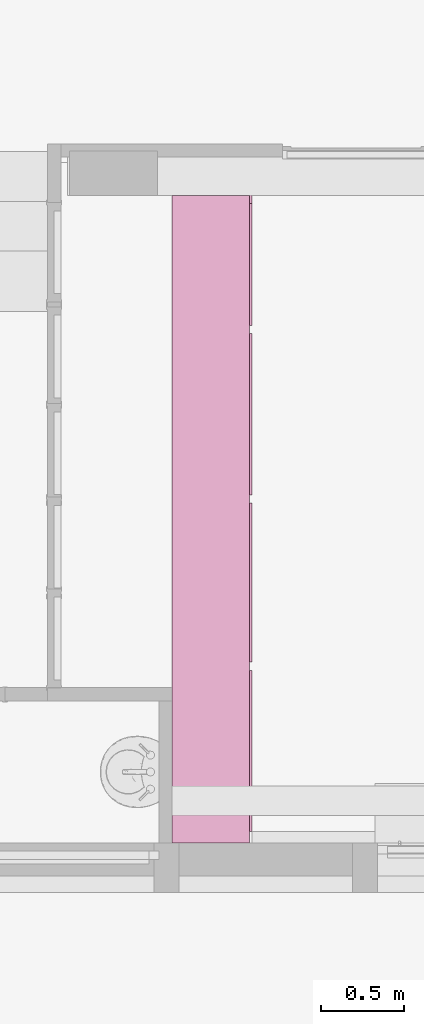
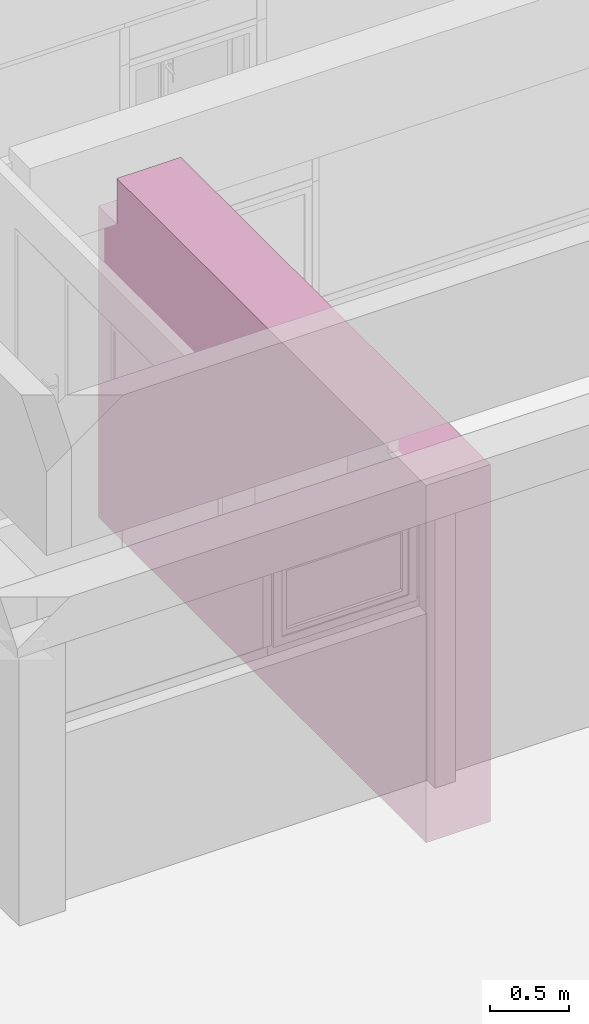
# One storey, part 47 of 49: 1 furniture element.
"""IFC4 building model written with IfcOpenShell, lengths in metres."""

from ifc_helpers import new_model, entity, si_unit, converted_unit, derived_unit, direction, frame, origin, place, context, subcontext, project, spatial, indexed_curve, outline, extrude, source, transform, mapped, material, type_object, type_shapes, element, save


model = new_model("IFC4")

# Units and contexts
model_context = context("Model", 3, precision=1e-05, world=origin(), true_north=direction((6.12303176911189e-17, 1.0)))
body_context = subcontext(model_context, "Body", "Model", "MODEL_VIEW")
ifc_project = project(units=[si_unit("LENGTHUNIT", "METRE"), si_unit("AREAUNIT", "SQUARE_METRE"), si_unit("VOLUMEUNIT", "CUBIC_METRE"), converted_unit("PLANEANGLEUNIT", "DEGREE", entity("IfcRatioMeasure", 0.0174532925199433), si_unit("PLANEANGLEUNIT", "RADIAN"), dimensions=[0, 0, 0, 0, 0, 0, 0]), si_unit("MASSUNIT", "GRAM", prefix="KILO"), derived_unit("MASSDENSITYUNIT", [(si_unit("MASSUNIT", "GRAM", prefix="KILO"), 1), (si_unit("LENGTHUNIT", "METRE"), -3)]), derived_unit("MOMENTOFINERTIAUNIT", [(si_unit("LENGTHUNIT", "METRE"), 4)]), si_unit("TIMEUNIT", "SECOND"), si_unit("FREQUENCYUNIT", "HERTZ"), si_unit("THERMODYNAMICTEMPERATUREUNIT", "DEGREE_CELSIUS"), derived_unit("THERMALTRANSMITTANCEUNIT", [(si_unit("MASSUNIT", "GRAM", prefix="KILO"), 1), (si_unit("THERMODYNAMICTEMPERATUREUNIT", "KELVIN"), -1), (si_unit("TIMEUNIT", "SECOND"), -3)]), derived_unit("VOLUMETRICFLOWRATEUNIT", [(si_unit("LENGTHUNIT", "METRE"), 3), (si_unit("TIMEUNIT", "SECOND"), -1)]), si_unit("ELECTRICCURRENTUNIT", "AMPERE"), si_unit("ELECTRICVOLTAGEUNIT", "VOLT"), si_unit("POWERUNIT", "WATT"), si_unit("FORCEUNIT", "NEWTON", prefix="KILO"), si_unit("ILLUMINANCEUNIT", "LUX"), si_unit("LUMINOUSFLUXUNIT", "LUMEN"), si_unit("LUMINOUSINTENSITYUNIT", "CANDELA"), derived_unit("USERDEFINED", [(si_unit("MASSUNIT", "GRAM", prefix="KILO"), -1), (si_unit("LENGTHUNIT", "METRE"), -2), (si_unit("TIMEUNIT", "SECOND"), 3), (si_unit("LUMINOUSFLUXUNIT", "LUMEN"), 1)]), derived_unit("LINEARVELOCITYUNIT", [(si_unit("LENGTHUNIT", "METRE"), 1), (si_unit("TIMEUNIT", "SECOND"), -1)]), si_unit("PRESSUREUNIT", "PASCAL"), derived_unit("USERDEFINED", [(si_unit("LENGTHUNIT", "METRE"), -2), (si_unit("MASSUNIT", "GRAM", prefix="KILO"), 1), (si_unit("TIMEUNIT", "SECOND"), -2)]), derived_unit("LINEARFORCEUNIT", [(si_unit("MASSUNIT", "GRAM", prefix="KILO"), 1), (si_unit("LENGTHUNIT", "METRE"), 1), (si_unit("TIMEUNIT", "SECOND"), -2), (si_unit("LENGTHUNIT", "METRE"), -1)]), derived_unit("PLANARFORCEUNIT", [(si_unit("MASSUNIT", "GRAM", prefix="KILO"), 1), (si_unit("LENGTHUNIT", "METRE"), 1), (si_unit("TIMEUNIT", "SECOND"), -2), (si_unit("LENGTHUNIT", "METRE"), -2)])], contexts=[model_context])

# Site, building, storey
site_placement = place(None, origin())
site = spatial("IfcSite", under=ifc_project, at=site_placement, Name="Default", CompositionType="ELEMENT")
building_placement = place(site_placement, origin())
building = spatial("IfcBuilding", under=site, at=building_placement, Name="HOTEL CONSULAIRE BOULOGNE SUR MER", CompositionType="ELEMENT")
storey_placement = place(building_placement, frame((0.0, 0.0, 6.81974152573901)))
storey = spatial("IfcBuildingStorey", under=building, at=storey_placement, Name="Niveau 2", CompositionType="ELEMENT", Elevation=6.81974152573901)

# Furniture
ifc_material = material(Name="Résineux, bois de construction", Category="Bois")
furniture_type = type_object("IfcFurnitureType", Name="Placard:Placard", AssemblyPlace="NOTDEFINED", PredefinedType="NOTDEFINED", material=ifc_material)
shared_shape = source(origin(), body_context, "Body", "SweptSolid", [
    extrude(outline(indexed_curve([(-0.00695513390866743, -0.492560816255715), (0.00695513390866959, -0.492560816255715), (0.00695513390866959, 0.492560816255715), (-0.00695513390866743, 0.492560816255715), (-0.00695513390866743, -0.492560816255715)], self_intersect=False)), frame((0.474955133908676, 3.62051371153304, 0.0510000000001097), z_axis=(0.0, 0.0, 1.0), x_axis=(-1.0, 0.0, 0.0)), (0.0, 0.0, 1.0), 2.01599999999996),
    extrude(outline(indexed_curve([(-0.00695513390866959, -0.487499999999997), (0.00695513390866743, -0.487499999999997), (0.00695513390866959, 0.487500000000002), (-0.00695513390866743, 0.487500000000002), (-0.00695513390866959, -0.487499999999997)], self_intersect=False)), frame((0.474955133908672, 0.555452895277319, 2.11700000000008), z_axis=(0.0, 0.0, 1.0), x_axis=(-1.0, 0.0, 0.0)), (0.0, 0.0, 1.0), 0.592000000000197),
    extrude(outline(indexed_curve([(-0.00695513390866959, -0.487499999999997), (0.00695513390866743, -0.487499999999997), (0.00695513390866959, 0.487500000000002), (-0.00695513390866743, 0.487500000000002), (-0.00695513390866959, -0.487499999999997)], self_intersect=False)), frame((0.474955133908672, 0.555452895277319, 0.0510000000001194), z_axis=(0.0, 0.0, 1.0), x_axis=(-1.0, 0.0, 0.0)), (0.0, 0.0, 1.0), 2.01599999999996),
    extrude(outline(indexed_curve([(-0.00695513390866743, -0.479999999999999), (0.00695513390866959, -0.479999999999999), (0.00695513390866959, 0.479999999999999), (-0.00695513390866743, 0.479999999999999), (-0.00695513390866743, -0.479999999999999)], self_intersect=False)), frame((0.474955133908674, 1.57295289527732, 2.11700000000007), z_axis=(0.0, 0.0, 1.0), x_axis=(-1.0, 0.0, 0.0)), (0.0, 0.0, 1.0), 0.592000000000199),
    extrude(outline(indexed_curve([(-0.00695513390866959, -0.487499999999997), (0.00695513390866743, -0.487499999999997), (0.00695513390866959, 0.487500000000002), (-0.00695513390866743, 0.487500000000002), (-0.00695513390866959, -0.487499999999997)], self_intersect=False)), frame((0.474955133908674, 2.59045289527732, 2.11700000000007), z_axis=(0.0, 0.0, 1.0), x_axis=(-1.0, 0.0, 0.0)), (0.0, 0.0, 1.0), 0.592000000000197),
    extrude(outline(indexed_curve([(-0.00695513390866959, -0.487499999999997), (0.00695513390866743, -0.487499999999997), (0.00695513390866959, 0.487499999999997), (-0.00695513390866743, 0.487499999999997), (-0.00695513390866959, -0.487499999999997)], self_intersect=False)), frame((0.474955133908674, 2.59045289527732, 0.0510000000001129), z_axis=(0.0, 0.0, 1.0), x_axis=(-1.0, 0.0, 0.0)), (0.0, 0.0, 1.0), 2.01599999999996),
    extrude(outline(indexed_curve([(-0.00695513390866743, -0.479999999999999), (0.00695513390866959, -0.479999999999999), (0.00695513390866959, 0.479999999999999), (-0.00695513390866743, 0.479999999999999), (-0.00695513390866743, -0.479999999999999)], self_intersect=False)), frame((0.474955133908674, 1.57295289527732, 0.0510000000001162), z_axis=(0.0, 0.0, 1.0), x_axis=(-1.0, 0.0, 0.0)), (0.0, 0.0, 1.0), 0.898503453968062),
    extrude(outline(indexed_curve([(-0.00695513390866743, -0.479999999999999), (0.00695513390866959, -0.479999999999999), (0.00695513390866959, 0.479999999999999), (-0.00695513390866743, 0.479999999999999), (-0.00695513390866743, -0.479999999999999)], self_intersect=False)), frame((0.474955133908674, 1.57295289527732, 1.55550345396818), z_axis=(0.0, 0.0, 1.0), x_axis=(-1.0, 0.0, 0.0)), (0.0, 0.0, 1.0), 0.511496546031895),
    extrude(outline(indexed_curve([(-0.30900000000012, -0.57374775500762), (0.283000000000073, -0.57374775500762), (0.283000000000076, 0.41137387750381), (0.0260000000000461, 0.41137387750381), (0.0260000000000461, 0.16237387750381), (-0.309000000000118, 0.16237387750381), (-0.30900000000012, -0.57374775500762)], self_intersect=False)), frame((0.468000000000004, 3.70170065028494, 2.40000000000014), z_axis=(1.0, 0.0, 0.0), x_axis=(0.0, 0.0, -1.0)), (0.0, 0.0, 1.0), 0.013910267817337),
    extrude(outline(indexed_curve([(-2.68504530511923, -1.71933333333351), (1.45889965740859, -1.71933333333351), (1.45889965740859, 0.682666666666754), (1.22614564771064, 0.682666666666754), (1.22614564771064, 1.03666666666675), (-2.68504530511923, 1.03666666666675), (-2.68504530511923, -1.71933333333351)], self_intersect=False)), frame((0.0, 2.68504530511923, 1.71933333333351), z_axis=(1.0, 0.0, 0.0), x_axis=(0.0, 1.0, 0.0)), (0.0, 0.0, 1.0), 0.0961032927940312),
    extrude(outline(indexed_curve([(-1.03666666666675, -2.68504530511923), (1.71933333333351, -2.68504530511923), (1.71933333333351, 1.45889965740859), (-0.682666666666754, 1.45889965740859), (-0.682666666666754, 1.22614564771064), (-1.03666666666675, 1.22614564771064), (-1.03666666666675, -2.68504530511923)], self_intersect=False), holes=[indexed_curve([(1.66833333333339, -1.64209240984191), (1.66833333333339, -2.61709240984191), (-0.347666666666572, -2.61709240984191), (-0.347666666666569, -1.64209240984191), (1.66833333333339, -1.64209240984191)], self_intersect=False), indexed_curve([(-0.397666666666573, -2.61709240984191), (-0.989666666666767, -2.61709240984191), (-0.989666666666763, -1.64209240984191), (-0.39766666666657, -1.64209240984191), (-0.397666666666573, -2.61709240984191)], self_intersect=False), indexed_curve([(-0.397666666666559, 1.42802922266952), (-0.397666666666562, 0.442907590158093), (-0.989666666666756, 0.442907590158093), (-0.989666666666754, 1.17902922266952), (-0.654666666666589, 1.17902922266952), (-0.654666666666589, 1.42802922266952), (-0.397666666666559, 1.42802922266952)], self_intersect=False), indexed_curve([(0.76982987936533, -1.59209240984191), (0.769829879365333, -0.632092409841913), (1.66833333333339, -0.632092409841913), (1.66833333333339, -1.59209240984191), (0.76982987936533, -1.59209240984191)], self_intersect=False), indexed_curve([(0.719829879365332, -0.632092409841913), (0.719829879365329, -1.59209240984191), (0.213829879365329, -1.59209240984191), (0.213829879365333, -0.632092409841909), (0.719829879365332, -0.632092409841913)], self_intersect=False), indexed_curve([(0.163829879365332, -0.632092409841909), (0.163829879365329, -1.59209240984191), (-0.347666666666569, -1.59209240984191), (-0.347666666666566, -0.632092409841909), (0.163829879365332, -0.632092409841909)], self_intersect=False), indexed_curve([(-0.347666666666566, -0.582092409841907), (-0.347666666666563, 0.392907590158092), (1.66833333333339, 0.392907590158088), (1.66833333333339, -0.582092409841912), (-0.347666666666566, -0.582092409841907)], self_intersect=False), indexed_curve([(-0.989666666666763, -1.59209240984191), (-0.98966666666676, -0.632092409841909), (-0.397666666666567, -0.632092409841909), (-0.39766666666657, -1.59209240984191), (-0.989666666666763, -1.59209240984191)], self_intersect=False), indexed_curve([(-0.98966666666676, -0.582092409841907), (-0.989666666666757, 0.392907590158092), (-0.397666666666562, 0.392907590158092), (-0.397666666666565, -0.582092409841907), (-0.98966666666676, -0.582092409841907)], self_intersect=False), indexed_curve([(1.6683333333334, 1.42802922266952), (1.66833333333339, 0.442907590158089), (-0.347666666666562, 0.442907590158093), (-0.347666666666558, 1.42802922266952), (1.6683333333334, 1.42802922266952)], self_intersect=False)]), frame((0.0961032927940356, 2.68504530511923, 1.71933333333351), z_axis=(1.0, 0.0, 0.0), x_axis=(0.0, 0.0, -1.0)), (0.0, 0.0, 1.0), 0.371896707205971),
])
type_shapes(furniture_type, [shared_shape])
furniture_placement = place(storey_placement, frame((14.5219086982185, -23.8271007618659, 0.0)))
element("IfcFurniture", 1, at=furniture_placement, inside=storey, type_object=furniture_type, material=ifc_material, Name="Placard:Placard", ObjectType="Placard:Placard", PredefinedType="NOTDEFINED", context=body_context, shape_type="MappedRepresentation", body=[
    mapped(shared_shape, transform((0.0, 0.0, 0.0), scale=1.0)),
])

save(model, "model.ifc")
